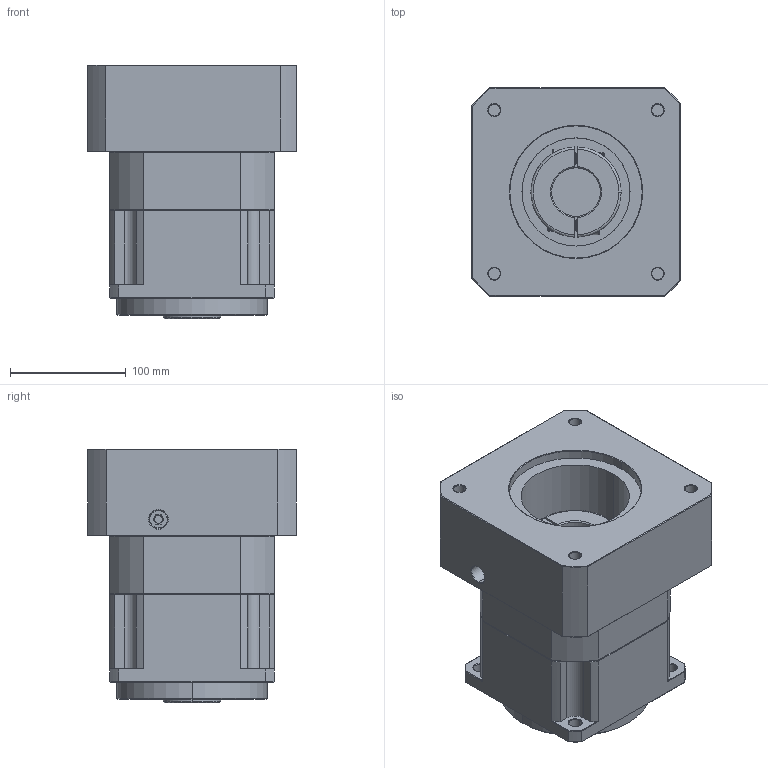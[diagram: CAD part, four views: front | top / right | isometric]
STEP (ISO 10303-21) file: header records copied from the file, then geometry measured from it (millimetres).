
FILE_DESCRIPTION (( 'STEP AP214' ), '1' );
FILE_NAME ('ZPB142-K35-L1-P1-42-114.3-200-M12.step', '2024-07-05T00:09:57', ( 'Windows 蚚誧' ), ( 'Organization' ), 'SwSTEP 2.0', 'SolidWorks 2016', '' );
FILE_SCHEMA (( 'AUTOMOTIVE_DESIGN' ));
Length unit declared in the file: millimetre
Products named in the file (1): ZPB142-K35-L1-P1-42-114.3-200-M12
Bounding box: 180 x 180 x 219.5 mm (x, y, z)
Surface area: 257690 mm2 (no closed solid volume)
Topology: 0 solids, 36 shells, 1749 faces, 4667 edges, 2994 vertices
Faces by surface type: plane 906, bspline 376, cone 257, cylinder 210
Entity records: 86372 total; most frequent: CARTESIAN_POINT 37611, ORIENTED_EDGE 9330, DIRECTION 7169, EDGE_CURVE 4667, VECTOR 3121, LINE 3121, VERTEX_POINT 2994, AXIS2_PLACEMENT_3D 2024
